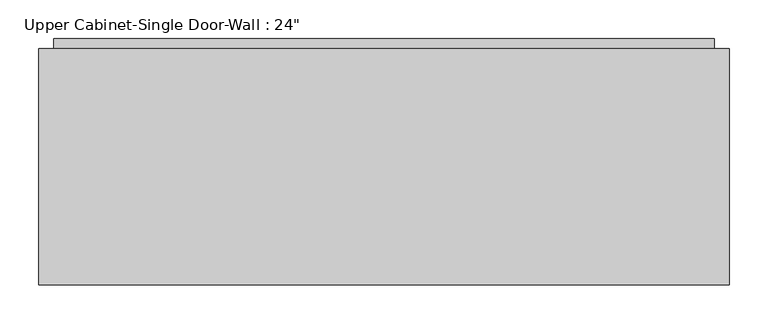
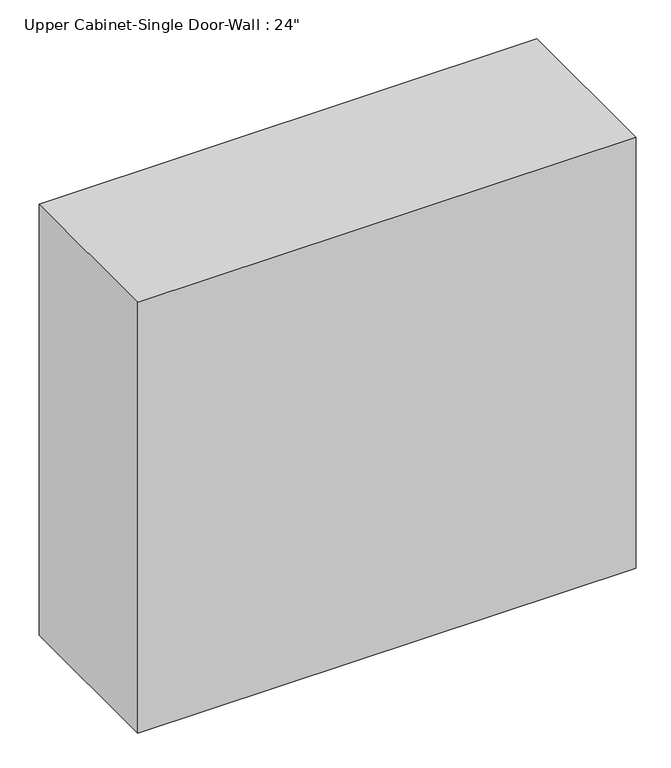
"""IFC4 building model written with IfcOpenShell, lengths in millimetres: furniture geometry."""

from ifc_helpers import new_model, si_unit, frame, origin, place, context, project, spatial, polyline, outline, extrude, faceted_brep, source, transform, mapped, element, save


def furniture_a81f2656(model_context):
    return source(origin(), model_context, "Body", "SolidModel", [
        faceted_brep([(-630.6288372, 57.15, 2133.6), (-630.6288372, 57.15, 1320.8), (258.3711628, 57.15, 1320.8), (258.3711628, 57.15, 2133.6), (-630.6288372, 361.95, 2133.6), (258.3711628, 361.95, 2133.6), (258.3711628, 361.95, 1320.8), (-630.6288372, 361.95, 1320.8), (-611.5788372, 361.95, 2114.55), (-611.5788372, 361.95, 1339.85), (239.3211628, 361.95, 1339.85), (239.3211628, 361.95, 2114.55), (239.3211628, 76.2, 2114.55), (-611.5788372, 76.2, 2114.55), (239.3211628, 76.2, 1339.85), (-611.5788372, 76.2, 1339.85)], [[[0, 1, 2, 3]], [[4, 5, 6, 7], [8, 9, 10, 11]], [[1, 0, 4, 7]], [[2, 1, 7, 6]], [[3, 2, 6, 5]], [[0, 3, 5, 4]], [[8, 11, 12, 13]], [[11, 10, 14, 12]], [[10, 9, 15, 14]], [[9, 8, 13, 15]], [[13, 12, 14, 15]]]),
        extrude(outline(polyline([(-611.5788372, 374.65), (239.3211628, 374.65), (239.3211628, 342.9), (-611.5788372, 342.9), (-611.5788372, 374.65)])), frame((0.0, 0.0, 1339.85), z_axis=(0.0, 0.0, 1.0), x_axis=(1.0, 0.0, 0.0)), (0.0, 0.0, 1.0), 774.7),
    ])


if __name__ == "__main__":
    model = new_model("IFC4")
    model_context = context("Model", 3, world=origin())
    ifc_project = project(units=[si_unit("LENGTHUNIT", "METRE", prefix="MILLI")], contexts=[model_context])
    site = spatial("IfcSite", under=ifc_project)
    building = spatial("IfcBuilding", under=site)
    placement = place(None, origin())
    furniture_shape = furniture_a81f2656(model_context)
    element("IfcFurniture", 1, ObjectType="Upper Cabinet-Single Door-Wall : 24\"", at=placement, inside=building, context=model_context, shape_type="MappedRepresentation", body=[
        mapped(furniture_shape, transform((0.0, 0.0, 0.0), x_axis=(1.0, 0.0, 0.0), y_axis=(0.0, 1.0, 0.0), z_axis=(0.0, 0.0, 1.0))),
    ])
    save(model, "model.ifc")
